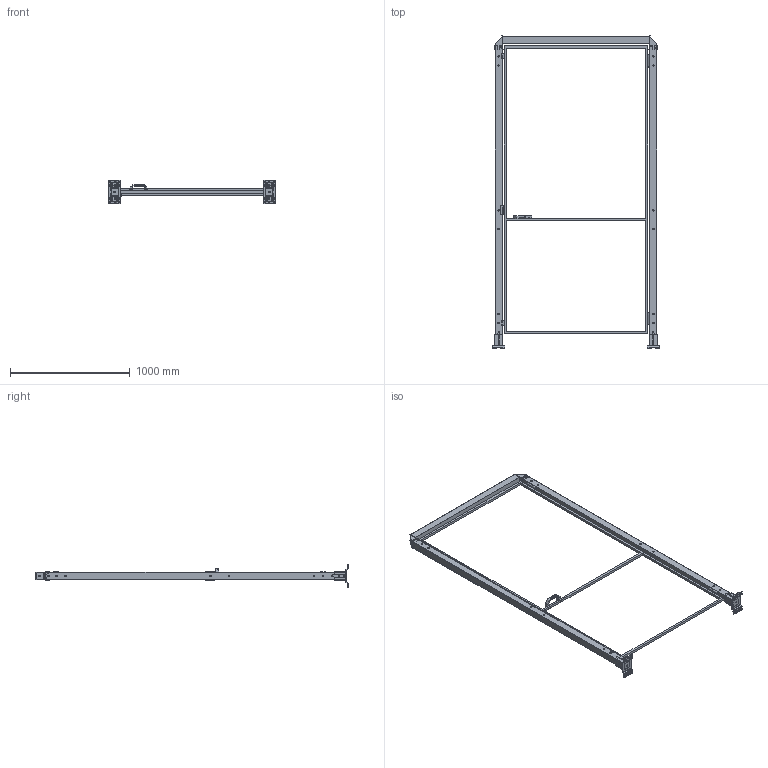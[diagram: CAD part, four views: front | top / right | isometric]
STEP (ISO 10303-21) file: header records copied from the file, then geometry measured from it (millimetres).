
FILE_DESCRIPTION(('STEP AP242'),'1');
FILE_NAME('vfda_bscncr2_12002520.stp','2025-01-31T11:16:31',('TraceParts'),('TraceParts S.A.'),'Spatial InterOp 3D',' ',' ');
FILE_SCHEMA(('AP242_MANAGED_MODEL_BASED_3D_ENGINEERING_MIM_LF {1 0 10303 442 1 1 4}'));
Length unit declared in the file: millimetre
Products named in the file (1): vfda_bscncr2_12002520_1
Bounding box: 1390 x 2601 x 192 mm (x, y, z)
Volume: 6072752.4 mm3; surface area: 3902060 mm2
Topology: 12 solids, 12 shells, 1942 faces, 5208 edges, 3340 vertices
Faces by surface type: plane 950, cylinder 652, bspline 236, cone 60, torus 40, sphere 4
Entity records: 78408 total; most frequent: CARTESIAN_POINT 14215, ORIENTED_EDGE 10408, DIRECTION 9578, EDGE_CURVE 5204, VERTEX_POINT 3340, LINE 3216, VECTOR 3216, AXIS2_PLACEMENT_3D 3181
